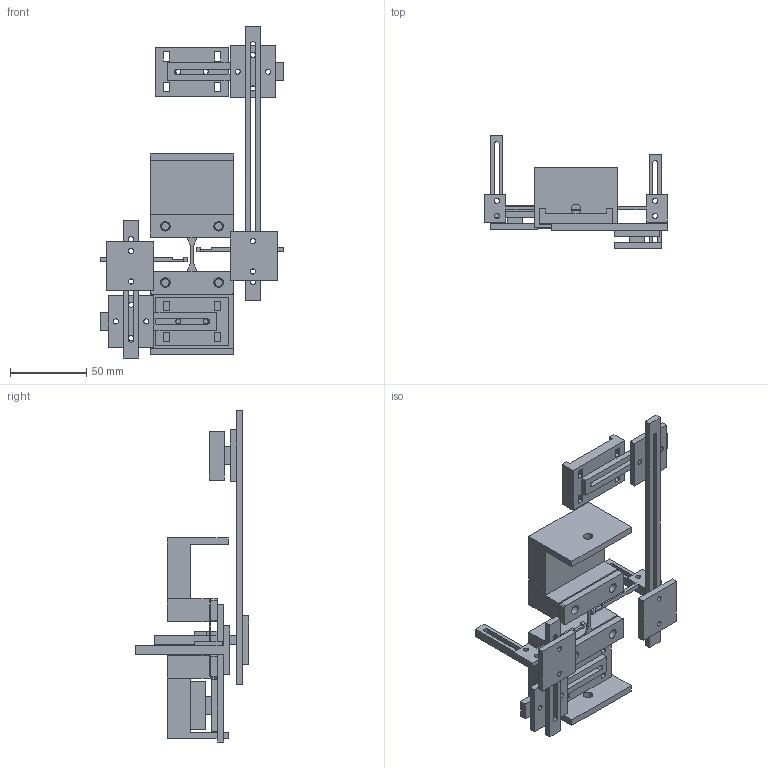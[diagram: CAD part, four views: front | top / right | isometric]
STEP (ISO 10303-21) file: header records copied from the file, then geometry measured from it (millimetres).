
FILE_DESCRIPTION(('Open CASCADE Model'),'2;1');
FILE_NAME('Open CASCADE Shape Model','2026-11-08T04:10:27',('Author'),( 'Open CASCADE'),'Open CASCADE STEP processor 7.8','Open CASCADE 7.8' ,'Unknown');
FILE_SCHEMA(('AUTOMOTIVE_DESIGN { 1 0 10303 214 1 1 1 1 }'));
Length unit declared in the file: millimetre
Products named in the file (18): nominal_installation_reference_only; lower_mount_reference; lower_cover_reference; upper_mount_reference; upper_cover_reference; nominal_specimen_reference; moving_strap_mount; moving_horizontal_bar; moving_corner; moving_vertical_rail; moving_depth_carriage; moving_target_arm; fixed_strap_mount; fixed_horizontal_bar; fixed_corner; fixed_vertical_rail; fixed_depth_carriage; fixed_target_arm
Assembly tree (17 placements, depth 2):
  nominal_installation_reference_only
    lower_mount_reference
    lower_cover_reference
    upper_mount_reference
    upper_cover_reference
    nominal_specimen_reference
    moving_strap_mount
    moving_horizontal_bar
    moving_corner
    moving_vertical_rail
    moving_depth_carriage
    moving_target_arm
    fixed_strap_mount
    fixed_horizontal_bar
    fixed_corner
    fixed_vertical_rail
    fixed_depth_carriage
    fixed_target_arm
Bounding box: 120 x 74.5 x 218 mm (x, y, z)
Volume: 184385 mm3; surface area: 77707.1 mm2
Topology: 19 solids, 19 shells, 292 faces, 742 edges, 492 vertices
Faces by surface type: plane 242, cylinder 50
Full cylindrical faces by diameter (mm): 3.4 x20, 5 x4, 6.3 x6
Entity records: 19098 total; most frequent: CARTESIAN_POINT 3340, DIRECTION 2894, LINE 2026, VECTOR 2026, ORIENTED_EDGE 1484, PCURVE 1484, DEFINITIONAL_REPRESENTATION 1484, EDGE_CURVE 742
